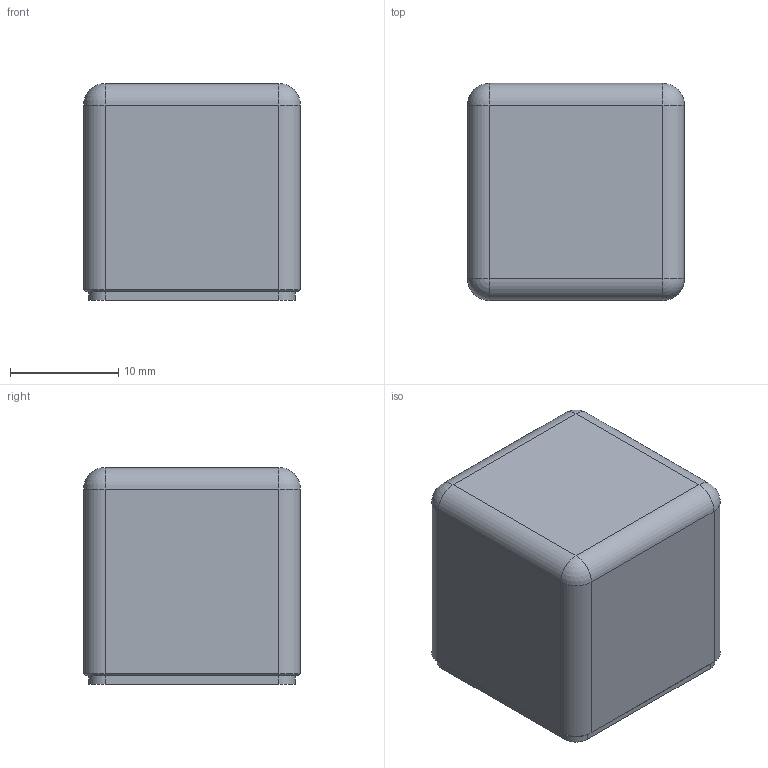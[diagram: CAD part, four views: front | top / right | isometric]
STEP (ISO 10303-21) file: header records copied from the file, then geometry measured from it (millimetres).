
FILE_DESCRIPTION(('Open CASCADE Model'),'2;1');
FILE_NAME('PN-CUBE-knob-20','2026-10-19T21:24:16',('Author'),( 'Open CASCADE'),'Open CASCADE STEP processor 8.0','build123d', 'Unknown');
FILE_SCHEMA(('AUTOMOTIVE_DESIGN { 1 0 10303 214 1 1 1 1 }'));
Length unit declared in the file: millimetre
Products named in the file (2): PN-CUBE-knob-20; brass_PN-CUBE20__k
Assembly tree (1 placements, depth 2):
  PN-CUBE-knob-20
    brass_PN-CUBE20__k
Bounding box: 20 x 20 x 20 mm (x, y, z)
Volume: 7726.6 mm3; surface area: 2368.3 mm2
Topology: 1 solids, 1 shells, 39 faces, 86 edges, 48 vertices
Faces by surface type: plane 17, cylinder 14, cone 4, sphere 4
Full cylindrical faces by diameter (mm): 3.3 x1, 5.1 x1
Entity records: 2100 total; most frequent: CARTESIAN_POINT 411, DIRECTION 314, ORIENTED_EDGE 164, PCURVE 164, DEFINITIONAL_REPRESENTATION 164, LINE 158, VECTOR 158, EDGE_CURVE 82
